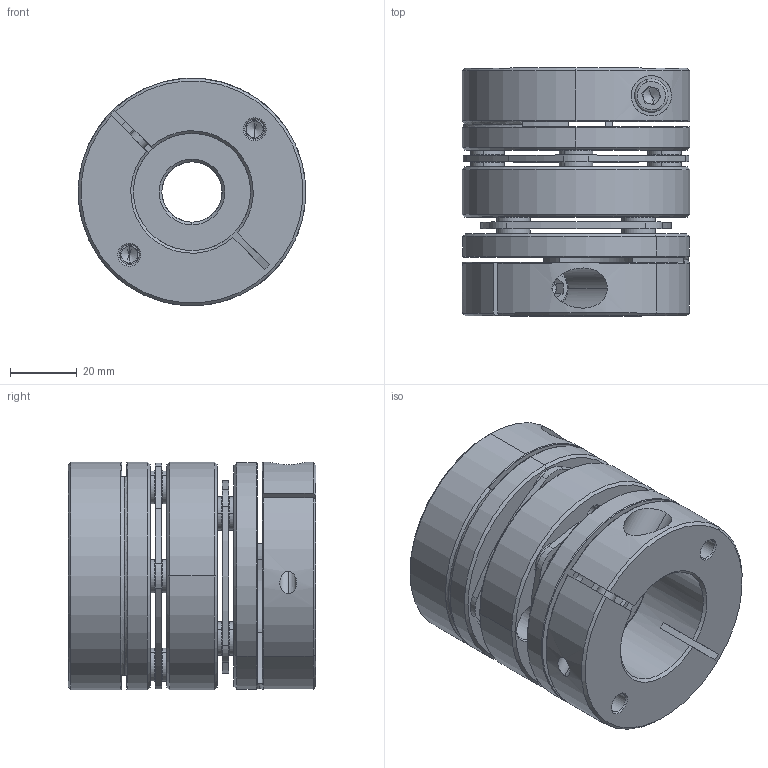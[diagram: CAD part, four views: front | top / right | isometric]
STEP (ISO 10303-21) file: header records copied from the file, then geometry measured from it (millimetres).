
FILE_DESCRIPTION (( 'STEP AP203' ), '1' );
FILE_NAME ('LD2-D68-18-35.STEP', '2021-10-26T08:26:53', ( '' ), ( '' ), 'SwSTEP 2.0', 'SolidWorks 2018', '' );
FILE_SCHEMA (( 'CONFIG_CONTROL_DESIGN' ));
Length unit declared in the file: millimetre
Products named in the file (2): 錨璃102^LD2-D68; LD2-D68-18-35
Assembly tree (1 placements, depth 2):
  LD2-D68-18-35
    錨璃102^LD2-D68
Bounding box: 68 x 74 x 68 mm (x, y, z)
Volume: 176286.9 mm3; surface area: 63300.1 mm2
Topology: 1 solids, 27 shells, 736 faces, 1708 edges, 1040 vertices
Faces by surface type: cylinder 258, cone 226, plane 222, torus 30
Entity records: 21536 total; most frequent: DIRECTION 4002, CARTESIAN_POINT 3933, ORIENTED_EDGE 3368, EDGE_CURVE 1684, AXIS2_PLACEMENT_3D 1625, VERTEX_POINT 1040, CIRCLE 885, EDGE_LOOP 872
